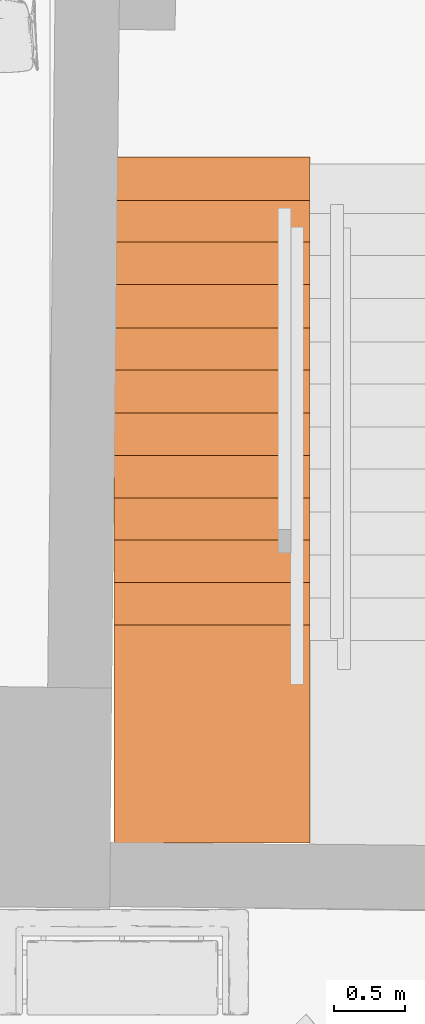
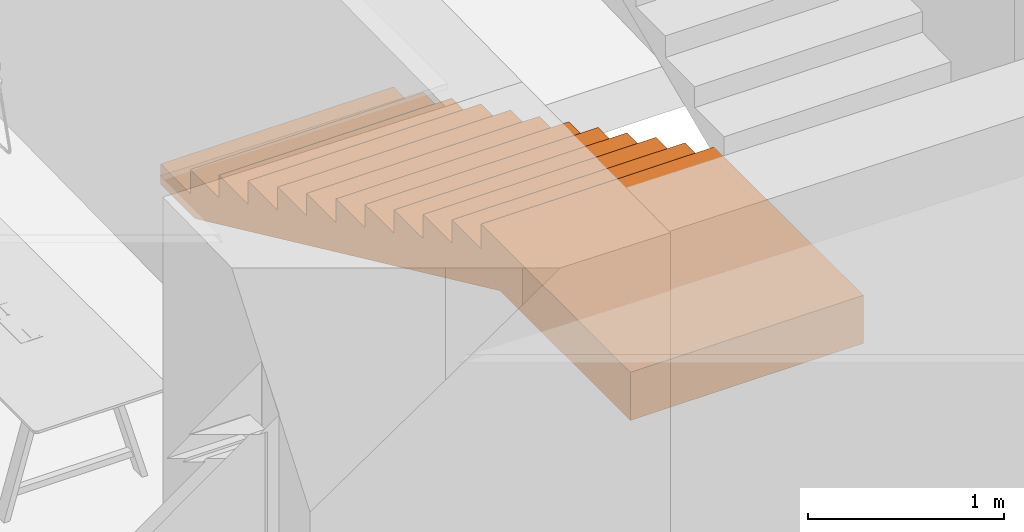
# One storey, part 17 of 19: 1 proxy.
"""IFC2X3 building model written with IfcOpenShell, lengths in millimetres."""

from ifc_helpers import new_model, entity, si_unit, converted_unit, derived_unit, direction, frame, origin, place, context, subcontext, project, spatial, polyline, outline, extrude, source, transform, mapped, type_object, type_shapes, element, save


model = new_model("IFC2X3")

# Units and contexts
model_context = context("Model", 3, precision=0.01, world=origin(), true_north=direction((6.12303176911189e-17, 1.0)))
context_of_model = context(None, 3, precision=0.01, world=origin(), true_north=direction((6.12303176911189e-17, 1.0)))
body_context = subcontext(model_context, "Body", "Model", "MODEL_VIEW")
ifc_project = project(units=[si_unit("LENGTHUNIT", "METRE", prefix="MILLI"), si_unit("AREAUNIT", "SQUARE_METRE"), si_unit("VOLUMEUNIT", "CUBIC_METRE"), converted_unit("PLANEANGLEUNIT", "DEGREE", entity("IfcRatioMeasure", 0.0174532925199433), si_unit("PLANEANGLEUNIT", "RADIAN"), dimensions=[0, 0, 0, 0, 0, 0, 0]), si_unit("MASSUNIT", "GRAM", prefix="KILO"), derived_unit("MASSDENSITYUNIT", [(si_unit("MASSUNIT", "GRAM", prefix="KILO"), 1), (si_unit("LENGTHUNIT", "METRE"), -3)]), si_unit("TIMEUNIT", "SECOND"), si_unit("FREQUENCYUNIT", "HERTZ"), si_unit("THERMODYNAMICTEMPERATUREUNIT", "DEGREE_CELSIUS"), derived_unit("THERMALTRANSMITTANCEUNIT", [(si_unit("MASSUNIT", "GRAM", prefix="KILO"), 1), (si_unit("THERMODYNAMICTEMPERATUREUNIT", "KELVIN"), -1), (si_unit("TIMEUNIT", "SECOND"), -3)]), derived_unit("VOLUMETRICFLOWRATEUNIT", [(si_unit("LENGTHUNIT", "METRE"), 3), (si_unit("TIMEUNIT", "SECOND"), -1)]), si_unit("ELECTRICCURRENTUNIT", "AMPERE"), si_unit("ELECTRICVOLTAGEUNIT", "VOLT"), si_unit("POWERUNIT", "WATT"), si_unit("FORCEUNIT", "NEWTON", prefix="KILO"), si_unit("ILLUMINANCEUNIT", "LUX"), si_unit("LUMINOUSFLUXUNIT", "LUMEN"), si_unit("LUMINOUSINTENSITYUNIT", "CANDELA"), derived_unit("USERDEFINED", [(si_unit("MASSUNIT", "GRAM", prefix="KILO"), -1), (si_unit("LENGTHUNIT", "METRE"), -2), (si_unit("TIMEUNIT", "SECOND"), 3), (si_unit("LUMINOUSFLUXUNIT", "LUMEN"), 1)]), derived_unit("LINEARVELOCITYUNIT", [(si_unit("LENGTHUNIT", "METRE"), 1), (si_unit("TIMEUNIT", "SECOND"), -1)]), si_unit("PRESSUREUNIT", "PASCAL"), derived_unit("USERDEFINED", [(si_unit("LENGTHUNIT", "METRE"), -2), (si_unit("MASSUNIT", "GRAM", prefix="KILO"), 1), (si_unit("TIMEUNIT", "SECOND"), -2)])], contexts=[model_context, context_of_model])

# Site, building, storey, space
site_placement = place(None, frame((121442.264707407, 135347.995453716, -1800.0)))
site = spatial("IfcSite", under=ifc_project, at=site_placement, Name="Surface", CompositionType="ELEMENT")
building_placement = place(site_placement, origin())
building = spatial("IfcBuilding", under=site, at=building_placement, CompositionType="ELEMENT")
storey_placement = place(building_placement, frame((0.0, 0.0, 5125.0)))
storey = spatial("IfcBuildingStorey", under=building, at=storey_placement, Name="2 korrus", CompositionType="ELEMENT", Elevation=5125.00000000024)
space_placement = place(storey_placement, origin())
space = spatial("IfcSpace", under=storey, at=space_placement, Name="220", CompositionType="ELEMENT", InteriorOrExteriorSpace="INTERNAL")

# Proxy
building_element_proxy_type = type_object("IfcBuildingElementProxyType", Name="Generic Models 6", PredefinedType="NOTDEFINED")
shared_shape = source(origin(), body_context, "Body", "SweptSolid", [
    extrude(outline(polyline([(1388.69416151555, -840.354360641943), (2914.02623920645, -840.354360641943), (2914.02623920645, -540.604360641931), (1580.9640089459, -540.604360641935), (-1532.67636373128, 897.606688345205), (-1883.80583848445, 897.606688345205), (-1883.80583848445, 769.395639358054), (-1578.80583848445, 769.395639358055), (-1578.80583848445, 619.395639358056), (-1288.80583848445, 619.395639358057), (-1288.80583848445, 479.395639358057), (-991.305838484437, 479.395639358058), (-991.305838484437, 334.395639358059), (-688.805838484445, 334.39563935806), (-688.805838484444, 189.39563935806), (-393.805838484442, 189.39563935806), (-393.805838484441, 49.3956393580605), (-93.8058384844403, 49.3956393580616), (-93.8058384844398, -98.1043606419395), (203.694161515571, -98.1043606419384), (203.694161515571, -243.104360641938), (501.194161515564, -243.104360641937), (501.194161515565, -390.604360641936), (796.194161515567, -390.604360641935), (796.194161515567, -540.604360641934), (1091.19416151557, -540.604360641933), (1091.19416151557, -685.604360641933), (1388.69416151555, -685.604360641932), (1388.69416151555, -840.354360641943)])), frame((-109352.617676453, -124116.362313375, 6022.60668834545), z_axis=(1.0, 0.0, 0.0), x_axis=(0.0, -1.0, 0.0)), (0.0, 0.0, 1.0), 1373.19640564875),
])
type_shapes(building_element_proxy_type, [shared_shape])
proxy_placement = place(space_placement, frame((0.0, 0.0, -5125.0)))
element("IfcBuildingElementProxy", 1, at=proxy_placement, inside=space, type_object=building_element_proxy_type, Name="Generic Models 6:Generic Models 6", ObjectType="Generic Models 6", context=body_context, shape_type="MappedRepresentation", body=[
    mapped(shared_shape, transform((0.0, 0.0, 0.0), scale=1.0)),
])

save(model, "model.ifc")
